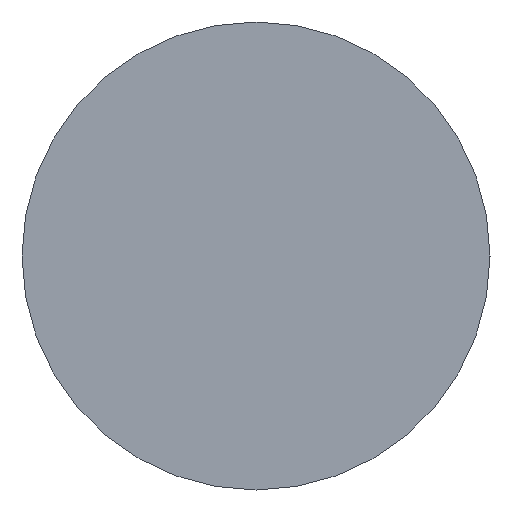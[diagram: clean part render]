
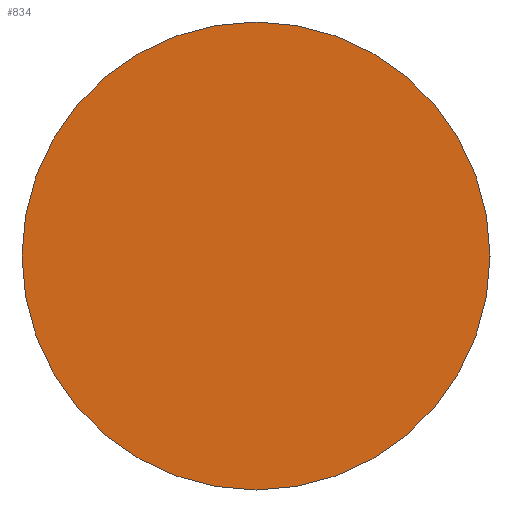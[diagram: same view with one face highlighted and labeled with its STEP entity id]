
A CAD part, left-side view. The second image highlights one B-rep face of the part: STEP entity #834.
In plain terms, the highlighted planar face has unit normal (-1, 0, 0).
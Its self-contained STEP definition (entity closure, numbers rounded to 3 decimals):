
#114=CIRCLE('',#953,4.);
#115=CIRCLE('',#954,4.);
#177=FACE_OUTER_BOUND('',#221,.T.);
#221=EDGE_LOOP('',(#705,#706));
#366=VERTEX_POINT('',#1556);
#367=VERTEX_POINT('',#1557);
#486=EDGE_CURVE('',#366,#367,#114,.T.);
#487=EDGE_CURVE('',#367,#366,#115,.T.);
#705=ORIENTED_EDGE('',*,*,#486,.F.);
#706=ORIENTED_EDGE('',*,*,#487,.F.);
#805=PLANE('',#952);
#834=ADVANCED_FACE('',(#177),#805,.T.);
#952=AXIS2_PLACEMENT_3D('',#1555,#1195,#1196);
#953=AXIS2_PLACEMENT_3D('',#1558,#1197,#1198);
#954=AXIS2_PLACEMENT_3D('',#1559,#1199,#1200);
#1195=DIRECTION('center_axis',(-1.,0.,0.));
#1196=DIRECTION('ref_axis',(0.,0.,1.));
#1197=DIRECTION('center_axis',(1.,0.,0.));
#1198=DIRECTION('ref_axis',(0.,0.,-1.));
#1199=DIRECTION('center_axis',(1.,0.,0.));
#1200=DIRECTION('ref_axis',(0.,0.,-1.));
#1555=CARTESIAN_POINT('Origin',(0.,4.,0.));
#1556=CARTESIAN_POINT('',(0.,4.,0.));
#1557=CARTESIAN_POINT('',(0.,-4.,0.));
#1558=CARTESIAN_POINT('Origin',(0.,0.,0.));
#1559=CARTESIAN_POINT('Origin',(0.,0.,0.));
